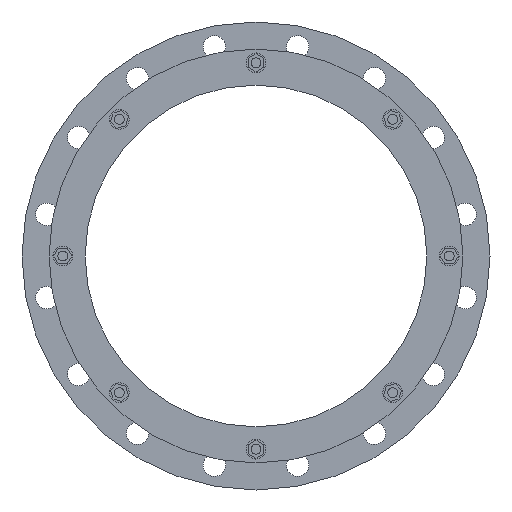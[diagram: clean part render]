
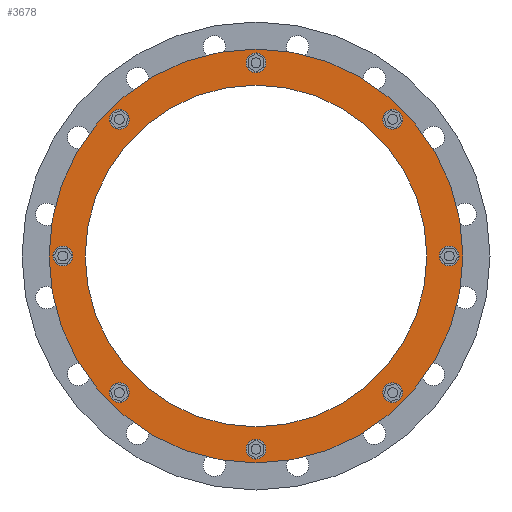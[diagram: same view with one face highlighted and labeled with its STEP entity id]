
A CAD part, front view. The second image highlights one B-rep face of the part: STEP entity #3678.
In plain terms, the highlighted planar face has unit normal (0, -1, 0).
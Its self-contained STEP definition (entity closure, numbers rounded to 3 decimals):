
#914=CARTESIAN_POINT('',(0.,-99.452,0.));
#915=DIRECTION('',(0.,-1.,0.));
#916=DIRECTION('',(1.,0.,0.));
#917=AXIS2_PLACEMENT_3D('',#914,#915,#916);
#919=CARTESIAN_POINT('',(0.,-99.452,0.));
#920=DIRECTION('',(0.,1.,0.));
#921=DIRECTION('',(1.,0.,0.));
#922=AXIS2_PLACEMENT_3D('',#919,#920,#921);
#924=CARTESIAN_POINT('',(233.25,-99.452,0.));
#925=DIRECTION('',(0.,-1.,0.));
#926=DIRECTION('',(0.,0.,-1.));
#927=AXIS2_PLACEMENT_3D('',#924,#925,#926);
#929=CARTESIAN_POINT('',(233.25,-99.452,0.));
#930=DIRECTION('',(0.,-1.,0.));
#931=DIRECTION('',(0.,0.,1.));
#932=AXIS2_PLACEMENT_3D('',#929,#930,#931);
#934=CARTESIAN_POINT('',(164.933,-99.452,164.933));
#935=DIRECTION('',(0.,-1.,0.));
#936=DIRECTION('',(0.707,0.,-0.707));
#937=AXIS2_PLACEMENT_3D('',#934,#935,#936);
#939=CARTESIAN_POINT('',(164.933,-99.452,164.933));
#940=DIRECTION('',(0.,-1.,0.));
#941=DIRECTION('',(-0.707,0.,0.707));
#942=AXIS2_PLACEMENT_3D('',#939,#940,#941);
#944=CARTESIAN_POINT('',(0.,-99.452,233.25));
#945=DIRECTION('',(0.,-1.,0.));
#946=DIRECTION('',(1.,0.,0.));
#947=AXIS2_PLACEMENT_3D('',#944,#945,#946);
#949=CARTESIAN_POINT('',(0.,-99.452,233.25));
#950=DIRECTION('',(0.,-1.,0.));
#951=DIRECTION('',(-1.,0.,0.));
#952=AXIS2_PLACEMENT_3D('',#949,#950,#951);
#954=CARTESIAN_POINT('',(-164.933,-99.452,164.933));
#955=DIRECTION('',(0.,-1.,0.));
#956=DIRECTION('',(0.707,0.,0.707));
#957=AXIS2_PLACEMENT_3D('',#954,#955,#956);
#959=CARTESIAN_POINT('',(-164.933,-99.452,164.933));
#960=DIRECTION('',(0.,-1.,0.));
#961=DIRECTION('',(-0.707,0.,-0.707));
#962=AXIS2_PLACEMENT_3D('',#959,#960,#961);
#964=CARTESIAN_POINT('',(-233.25,-99.452,0.));
#965=DIRECTION('',(0.,-1.,0.));
#966=DIRECTION('',(0.,0.,1.));
#967=AXIS2_PLACEMENT_3D('',#964,#965,#966);
#969=CARTESIAN_POINT('',(-233.25,-99.452,0.));
#970=DIRECTION('',(0.,-1.,0.));
#971=DIRECTION('',(0.,0.,-1.));
#972=AXIS2_PLACEMENT_3D('',#969,#970,#971);
#974=CARTESIAN_POINT('',(-164.933,-99.452,-164.933));
#975=DIRECTION('',(0.,-1.,0.));
#976=DIRECTION('',(-0.707,0.,0.707));
#977=AXIS2_PLACEMENT_3D('',#974,#975,#976);
#979=CARTESIAN_POINT('',(-164.933,-99.452,-164.933));
#980=DIRECTION('',(0.,-1.,0.));
#981=DIRECTION('',(0.707,0.,-0.707));
#982=AXIS2_PLACEMENT_3D('',#979,#980,#981);
#984=CARTESIAN_POINT('',(0.,-99.452,-233.25));
#985=DIRECTION('',(0.,-1.,0.));
#986=DIRECTION('',(-1.,0.,0.));
#987=AXIS2_PLACEMENT_3D('',#984,#985,#986);
#989=CARTESIAN_POINT('',(0.,-99.452,-233.25));
#990=DIRECTION('',(0.,-1.,0.));
#991=DIRECTION('',(1.,0.,0.));
#992=AXIS2_PLACEMENT_3D('',#989,#990,#991);
#994=CARTESIAN_POINT('',(164.933,-99.452,-164.933));
#995=DIRECTION('',(0.,-1.,0.));
#996=DIRECTION('',(-0.707,0.,-0.707));
#997=AXIS2_PLACEMENT_3D('',#994,#995,#996);
#999=CARTESIAN_POINT('',(164.933,-99.452,-164.933));
#1000=DIRECTION('',(0.,-1.,0.));
#1001=DIRECTION('',(0.707,0.,0.707));
#1002=AXIS2_PLACEMENT_3D('',#999,#1000,#1001);
#1004=CARTESIAN_POINT('',(0.,-99.452,0.));
#1005=DIRECTION('',(0.,1.,0.));
#1006=DIRECTION('',(1.,0.,0.));
#1007=AXIS2_PLACEMENT_3D('',#1004,#1005,#1006);
#1017=CARTESIAN_POINT('',(0.,-99.452,0.));
#1018=DIRECTION('',(0.,-1.,0.));
#1019=DIRECTION('',(1.,0.,0.));
#1020=AXIS2_PLACEMENT_3D('',#1017,#1018,#1019);
#2391=CARTESIAN_POINT('',(249.85,-99.452,0.));
#2393=VERTEX_POINT('',#2391);
#2394=CARTESIAN_POINT('',(206.25,-99.452,0.));
#2396=VERTEX_POINT('',#2394);
#2403=CARTESIAN_POINT('',(-249.85,-99.452,0.));
#2405=VERTEX_POINT('',#2403);
#2406=CARTESIAN_POINT('',(-206.25,-99.452,0.));
#2408=VERTEX_POINT('',#2406);
#2445=CARTESIAN_POINT('',(233.25,-99.452,-12.));
#2446=CARTESIAN_POINT('',(233.25,-99.452,12.));
#2447=VERTEX_POINT('',#2445);
#2448=VERTEX_POINT('',#2446);
#2494=CARTESIAN_POINT('',(173.418,-99.452,156.447));
#2495=VERTEX_POINT('',#2494);
#2496=CARTESIAN_POINT('',(156.447,-99.452,173.418));
#2497=VERTEX_POINT('',#2496);
#2538=CARTESIAN_POINT('',(12.,-99.452,233.25));
#2539=VERTEX_POINT('',#2538);
#2540=CARTESIAN_POINT('',(-12.,-99.452,233.25));
#2541=VERTEX_POINT('',#2540);
#2582=CARTESIAN_POINT('',(-156.447,-99.452,173.418));
#2583=VERTEX_POINT('',#2582);
#2584=CARTESIAN_POINT('',(-173.418,-99.452,156.447));
#2585=VERTEX_POINT('',#2584);
#2626=CARTESIAN_POINT('',(-233.25,-99.452,12.));
#2627=VERTEX_POINT('',#2626);
#2628=CARTESIAN_POINT('',(-233.25,-99.452,-12.));
#2629=VERTEX_POINT('',#2628);
#2670=CARTESIAN_POINT('',(-173.418,-99.452,-156.447));
#2671=VERTEX_POINT('',#2670);
#2672=CARTESIAN_POINT('',(-156.447,-99.452,-173.418));
#2673=VERTEX_POINT('',#2672);
#2714=CARTESIAN_POINT('',(-12.,-99.452,-233.25));
#2715=VERTEX_POINT('',#2714);
#2716=CARTESIAN_POINT('',(12.,-99.452,-233.25));
#2717=VERTEX_POINT('',#2716);
#2758=CARTESIAN_POINT('',(156.447,-99.452,-173.418));
#2759=VERTEX_POINT('',#2758);
#2760=CARTESIAN_POINT('',(173.418,-99.452,-156.447));
#2761=VERTEX_POINT('',#2760);
#3615=CARTESIAN_POINT('',(0.,-99.452,0.));
#3616=DIRECTION('',(0.,1.,0.));
#3617=DIRECTION('',(-1.,0.,0.));
#3618=AXIS2_PLACEMENT_3D('',#3615,#3616,#3617);
#3619=PLANE('',#3618);
#3621=ORIENTED_EDGE('',*,*,#3620,.F.);
#3623=ORIENTED_EDGE('',*,*,#3622,.T.);
#3624=EDGE_LOOP('',(#3621,#3623));
#3625=FACE_OUTER_BOUND('',#3624,.F.);
#3627=ORIENTED_EDGE('',*,*,#3626,.F.);
#3629=ORIENTED_EDGE('',*,*,#3628,.T.);
#3630=EDGE_LOOP('',(#3627,#3629));
#3631=FACE_BOUND('',#3630,.F.);
#3633=ORIENTED_EDGE('',*,*,#3632,.T.);
#3635=ORIENTED_EDGE('',*,*,#3634,.T.);
#3636=EDGE_LOOP('',(#3633,#3635));
#3637=FACE_BOUND('',#3636,.F.);
#3639=ORIENTED_EDGE('',*,*,#3638,.T.);
#3641=ORIENTED_EDGE('',*,*,#3640,.T.);
#3642=EDGE_LOOP('',(#3639,#3641));
#3643=FACE_BOUND('',#3642,.F.);
#3645=ORIENTED_EDGE('',*,*,#3644,.T.);
#3647=ORIENTED_EDGE('',*,*,#3646,.T.);
#3648=EDGE_LOOP('',(#3645,#3647));
#3649=FACE_BOUND('',#3648,.F.);
#3651=ORIENTED_EDGE('',*,*,#3650,.T.);
#3653=ORIENTED_EDGE('',*,*,#3652,.T.);
#3654=EDGE_LOOP('',(#3651,#3653));
#3655=FACE_BOUND('',#3654,.F.);
#3657=ORIENTED_EDGE('',*,*,#3656,.T.);
#3659=ORIENTED_EDGE('',*,*,#3658,.T.);
#3660=EDGE_LOOP('',(#3657,#3659));
#3661=FACE_BOUND('',#3660,.F.);
#3663=ORIENTED_EDGE('',*,*,#3662,.T.);
#3665=ORIENTED_EDGE('',*,*,#3664,.T.);
#3666=EDGE_LOOP('',(#3663,#3665));
#3667=FACE_BOUND('',#3666,.F.);
#3668=ORIENTED_EDGE('',*,*,#3597,.T.);
#3669=ORIENTED_EDGE('',*,*,#3608,.T.);
#3670=EDGE_LOOP('',(#3668,#3669));
#3671=FACE_BOUND('',#3670,.F.);
#3673=ORIENTED_EDGE('',*,*,#3672,.T.);
#3675=ORIENTED_EDGE('',*,*,#3674,.T.);
#3676=EDGE_LOOP('',(#3673,#3675));
#3677=FACE_BOUND('',#3676,.F.);
#3678=ADVANCED_FACE('',(#3625,#3631,#3637,#3643,#3649,#3655,#3661,#3667,#3671,
#3677),#3619,.F.);
#918=CIRCLE('',#917,249.85);
#923=CIRCLE('',#922,249.85);
#928=CIRCLE('',#927,12.);
#933=CIRCLE('',#932,12.);
#938=CIRCLE('',#937,12.);
#943=CIRCLE('',#942,12.);
#948=CIRCLE('',#947,12.);
#953=CIRCLE('',#952,12.);
#958=CIRCLE('',#957,12.);
#963=CIRCLE('',#962,12.);
#968=CIRCLE('',#967,12.);
#973=CIRCLE('',#972,12.);
#978=CIRCLE('',#977,12.);
#983=CIRCLE('',#982,12.);
#988=CIRCLE('',#987,12.);
#993=CIRCLE('',#992,12.);
#998=CIRCLE('',#997,12.);
#1003=CIRCLE('',#1002,12.);
#1008=CIRCLE('',#1007,206.25);
#1021=CIRCLE('',#1020,206.25);
#3597=EDGE_CURVE('',#2715,#2717,#988,.T.);
#3608=EDGE_CURVE('',#2717,#2715,#993,.T.);
#3620=EDGE_CURVE('',#2393,#2405,#918,.T.);
#3622=EDGE_CURVE('',#2393,#2405,#923,.T.);
#3626=EDGE_CURVE('',#2396,#2408,#1008,.T.);
#3628=EDGE_CURVE('',#2396,#2408,#1021,.T.);
#3632=EDGE_CURVE('',#2447,#2448,#928,.T.);
#3634=EDGE_CURVE('',#2448,#2447,#933,.T.);
#3638=EDGE_CURVE('',#2495,#2497,#938,.T.);
#3640=EDGE_CURVE('',#2497,#2495,#943,.T.);
#3644=EDGE_CURVE('',#2539,#2541,#948,.T.);
#3646=EDGE_CURVE('',#2541,#2539,#953,.T.);
#3650=EDGE_CURVE('',#2583,#2585,#958,.T.);
#3652=EDGE_CURVE('',#2585,#2583,#963,.T.);
#3656=EDGE_CURVE('',#2627,#2629,#968,.T.);
#3658=EDGE_CURVE('',#2629,#2627,#973,.T.);
#3662=EDGE_CURVE('',#2671,#2673,#978,.T.);
#3664=EDGE_CURVE('',#2673,#2671,#983,.T.);
#3672=EDGE_CURVE('',#2759,#2761,#998,.T.);
#3674=EDGE_CURVE('',#2761,#2759,#1003,.T.);
